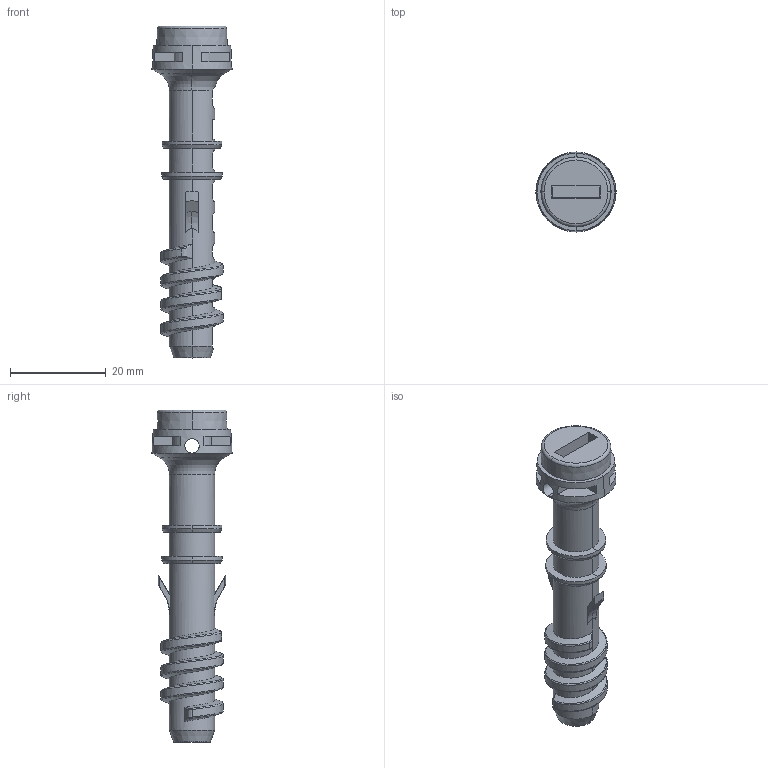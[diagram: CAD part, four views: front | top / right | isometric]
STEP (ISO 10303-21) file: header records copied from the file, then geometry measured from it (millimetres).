
FILE_DESCRIPTION((''),'2;1');
FILE_NAME('NSYTCD274-3D_ASM','2020-11-17T14:52:00',('SESA52832'),('Schneider-Electric'),'CREO PARAMETRIC BY PTC INC, 2019164','CREO PARAMETRIC BY PTC INC, 2019164','');
FILE_SCHEMA(('AP242_MANAGED_MODEL_BASED_3D_ENGINEERING_MIM_LF { 1 0 10303 442 1 1 4 }'));
Length unit declared in the file: millimetre
Products named in the file (2): 536151000101; NSYTCD274-3D_ASM
Assembly tree (1 placements, depth 2):
  NSYTCD274-3D_ASM
    536151000101
Bounding box: 16.7 x 16.7 x 69.2 mm (x, y, z)
Volume: 5562.3 mm3; surface area: 4337.4 mm2
Topology: 1 solids, 1 shells, 234 faces, 548 edges, 324 vertices
Faces by surface type: plane 84, cylinder 80, sphere 28, bspline 26, cone 12, torus 4
Entity records: 14247 total; most frequent: CARTESIAN_POINT 5845, ORIENTED_EDGE 1096, DIRECTION 946, PRESENTATION_STYLE_ASSIGNMENT 783, STYLED_ITEM 783, CURVE_STYLE 548, EDGE_CURVE 548, AXIS2_PLACEMENT_3D 351
